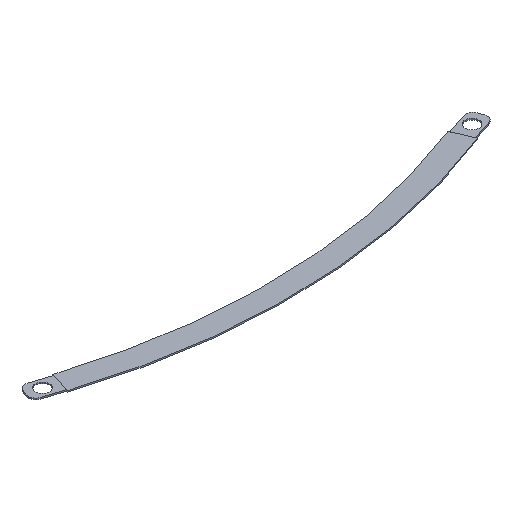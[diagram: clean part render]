
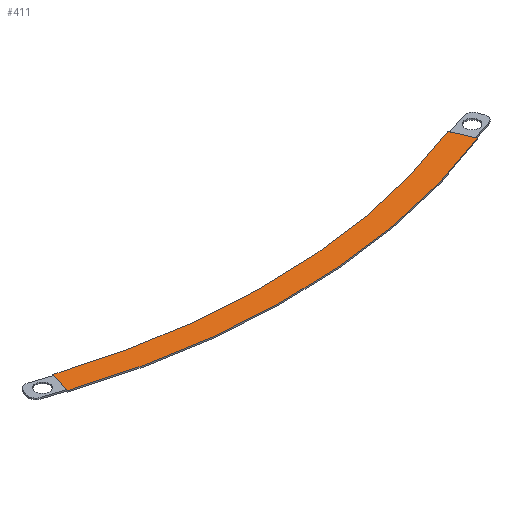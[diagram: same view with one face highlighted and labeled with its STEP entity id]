
A CAD part, isometric view. The second image highlights one B-rep face of the part: STEP entity #411.
In plain terms, the highlighted planar face has unit normal (0, 0, 1).
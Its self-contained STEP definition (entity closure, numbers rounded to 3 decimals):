
#37=PLANE('',#467);
#61=FACE_OUTER_BOUND('',#89,.T.);
#89=EDGE_LOOP('',(#373,#374,#375,#376));
#124=LINE('',#691,#162);
#128=LINE('',#701,#166);
#162=VECTOR('',#572,10.);
#166=VECTOR('',#584,10.);
#180=CIRCLE('',#461,432.106);
#182=CIRCLE('',#465,448.106);
#213=VERTEX_POINT('',#682);
#214=VERTEX_POINT('',#684);
#216=VERTEX_POINT('',#690);
#218=VERTEX_POINT('',#696);
#263=EDGE_CURVE('',#214,#213,#180,.T.);
#266=EDGE_CURVE('',#216,#214,#124,.T.);
#269=EDGE_CURVE('',#218,#216,#182,.T.);
#272=EDGE_CURVE('',#213,#218,#128,.T.);
#373=ORIENTED_EDGE('',*,*,#272,.T.);
#374=ORIENTED_EDGE('',*,*,#269,.T.);
#375=ORIENTED_EDGE('',*,*,#266,.T.);
#376=ORIENTED_EDGE('',*,*,#263,.T.);
#411=ADVANCED_FACE('',(#61),#37,.T.);
#461=AXIS2_PLACEMENT_3D('',#685,#566,#567);
#465=AXIS2_PLACEMENT_3D('',#697,#578,#579);
#467=AXIS2_PLACEMENT_3D('',#702,#585,#586);
#566=DIRECTION('center_axis',(0.,0.,-1.));
#567=DIRECTION('ref_axis',(-0.307,-0.952,0.));
#572=DIRECTION('',(-0.388,0.922,0.));
#578=DIRECTION('center_axis',(0.,0.,1.));
#579=DIRECTION('ref_axis',(-0.307,-0.952,0.));
#584=DIRECTION('',(-0.307,-0.952,0.));
#585=DIRECTION('center_axis',(0.,0.,1.));
#586=DIRECTION('ref_axis',(1.,0.,0.));
#682=CARTESIAN_POINT('',(117.384,-38.846,1.));
#684=CARTESIAN_POINT('',(408.546,-29.563,1.));
#685=CARTESIAN_POINT('Origin',(250.,372.406,1.));
#690=CARTESIAN_POINT('',(414.761,-44.311,1.));
#691=CARTESIAN_POINT('',(408.546,-29.563,1.));
#696=CARTESIAN_POINT('',(112.473,-54.074,1.));
#697=CARTESIAN_POINT('Origin',(250.,372.406,1.));
#701=CARTESIAN_POINT('',(117.384,-38.846,1.));
#702=CARTESIAN_POINT('Origin',(263.617,-52.631,1.));
